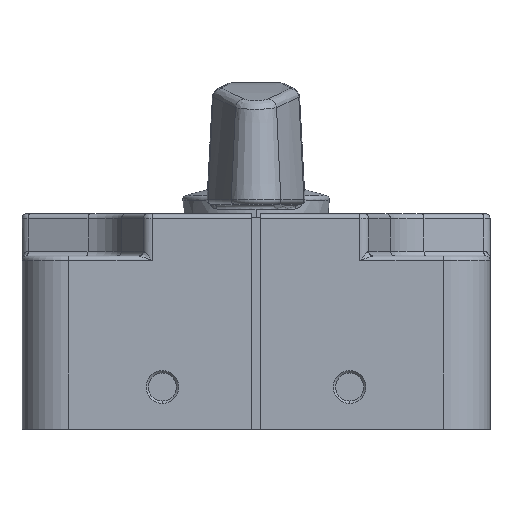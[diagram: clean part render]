
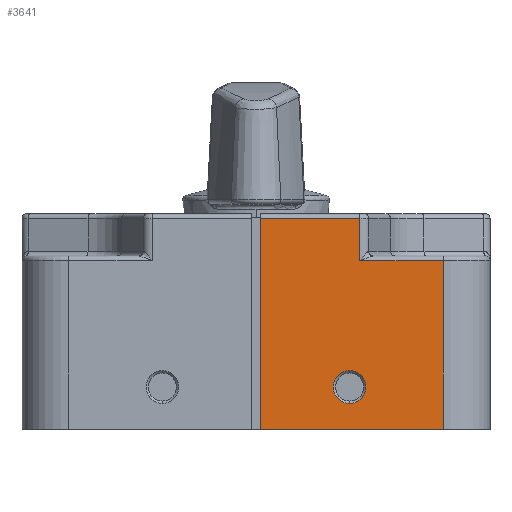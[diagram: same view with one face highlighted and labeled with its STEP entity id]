
A CAD part, front view. The second image highlights one B-rep face of the part: STEP entity #3641.
In plain terms, the highlighted planar face has unit normal (0, -1, 0).
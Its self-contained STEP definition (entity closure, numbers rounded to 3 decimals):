
#196 = EDGE_CURVE ( 'NONE', #3350, #11375, #659, .T. ) ;
#234 = VERTEX_POINT ( 'NONE', #2292 ) ;
#391 = DIRECTION ( 'NONE',  ( 0., 0., -1. ) ) ;
#395 = DIRECTION ( 'NONE',  ( 0., 0., 1. ) ) ;
#659 = LINE ( 'NONE', #10127, #11838 ) ;
#750 = VERTEX_POINT ( 'NONE', #4538 ) ;
#837 = DIRECTION ( 'NONE',  ( 0., 0., 1. ) ) ;
#1464 = CARTESIAN_POINT ( 'NONE',  ( 10., -25., -6.25 ) ) ;
#1479 = PLANE ( 'NONE',  #12047 ) ;
#1845 = ORIENTED_EDGE ( 'NONE', *, *, #2828, .F. ) ;
#1911 = EDGE_CURVE ( 'NONE', #10068, #10481, #9452, .T. ) ;
#2217 = AXIS2_PLACEMENT_3D ( 'NONE', #8156, #8973, #391 ) ;
#2292 = CARTESIAN_POINT ( 'NONE',  ( 0.5, -25., 13.5 ) ) ;
#2355 = FACE_BOUND ( 'NONE', #3634, .T. ) ;
#2424 = CIRCLE ( 'NONE', #2217, 1.75 ) ;
#2480 = ORIENTED_EDGE ( 'NONE', *, *, #196, .T. ) ;
#2627 = VERTEX_POINT ( 'NONE', #3777 ) ;
#2738 = ORIENTED_EDGE ( 'NONE', *, *, #8101, .T. ) ;
#2828 = EDGE_CURVE ( 'NONE', #10481, #10068, #2424, .T. ) ;
#3350 = VERTEX_POINT ( 'NONE', #3801 ) ;
#3396 = VECTOR ( 'NONE', #8278, 1000. ) ;
#3450 = LINE ( 'NONE', #4463, #3396 ) ;
#3634 = EDGE_LOOP ( 'NONE', ( #1845, #11097 ) ) ;
#3641 = ADVANCED_FACE ( 'NONE', ( #2355, #4425 ), #1479, .F. ) ;
#3777 = CARTESIAN_POINT ( 'NONE',  ( 11.095, -25., 9. ) ) ;
#3801 = CARTESIAN_POINT ( 'NONE',  ( 0.5, -25., -9. ) ) ;
#4001 = ORIENTED_EDGE ( 'NONE', *, *, #4670, .T. ) ;
#4066 = CARTESIAN_POINT ( 'NONE',  ( 10., -25., -4.5 ) ) ;
#4425 = FACE_OUTER_BOUND ( 'NONE', #12003, .T. ) ;
#4463 = CARTESIAN_POINT ( 'NONE',  ( 11.095, -25., 9. ) ) ;
#4538 = CARTESIAN_POINT ( 'NONE',  ( 11.095, -25., 13.5 ) ) ;
#4670 = EDGE_CURVE ( 'NONE', #12088, #2627, #3450, .T. ) ;
#4723 = VECTOR ( 'NONE', #395, 1000. ) ;
#5157 = CARTESIAN_POINT ( 'NONE',  ( 11.095, -25., 14. ) ) ;
#5436 = DIRECTION ( 'NONE',  ( 0., 1., 0. ) ) ;
#5621 = CARTESIAN_POINT ( 'NONE',  ( 20., -25., -9. ) ) ;
#5874 = VECTOR ( 'NONE', #837, 1000. ) ;
#6114 = EDGE_CURVE ( 'NONE', #2627, #750, #7099, .T. ) ;
#6460 = VECTOR ( 'NONE', #8148, 1000. ) ;
#6950 = DIRECTION ( 'NONE',  ( 0., 0., -1. ) ) ;
#7038 = CARTESIAN_POINT ( 'NONE',  ( -25., -25., 13.5 ) ) ;
#7066 = DIRECTION ( 'NONE',  ( 0., 0., 1. ) ) ;
#7071 = EDGE_CURVE ( 'NONE', #750, #234, #11057, .T. ) ;
#7099 = LINE ( 'NONE', #5157, #11464 ) ;
#7237 = DIRECTION ( 'NONE',  ( 1., 0., 0. ) ) ;
#7294 = CARTESIAN_POINT ( 'NONE',  ( 0.5, -25., 14. ) ) ;
#8101 = EDGE_CURVE ( 'NONE', #11375, #12088, #9421, .T. ) ;
#8148 = DIRECTION ( 'NONE',  ( -1., 0., 0. ) ) ;
#8156 = CARTESIAN_POINT ( 'NONE',  ( 10., -25., -4.5 ) ) ;
#8278 = DIRECTION ( 'NONE',  ( -1., 0., 0. ) ) ;
#8929 = ORIENTED_EDGE ( 'NONE', *, *, #10411, .F. ) ;
#8973 = DIRECTION ( 'NONE',  ( 0., -1., 0. ) ) ;
#9001 = DIRECTION ( 'NONE',  ( 0., -1., 0. ) ) ;
#9421 = LINE ( 'NONE', #12329, #5874 ) ;
#9452 = CIRCLE ( 'NONE', #11466, 1.75 ) ;
#9737 = ORIENTED_EDGE ( 'NONE', *, *, #7071, .T. ) ;
#10068 = VERTEX_POINT ( 'NONE', #11729 ) ;
#10127 = CARTESIAN_POINT ( 'NONE',  ( -25., -25., -9. ) ) ;
#10411 = EDGE_CURVE ( 'NONE', #3350, #234, #11001, .T. ) ;
#10481 = VERTEX_POINT ( 'NONE', #1464 ) ;
#11001 = LINE ( 'NONE', #7294, #4723 ) ;
#11057 = LINE ( 'NONE', #7038, #6460 ) ;
#11097 = ORIENTED_EDGE ( 'NONE', *, *, #1911, .F. ) ;
#11152 = CARTESIAN_POINT ( 'NONE',  ( -25., -25., 14. ) ) ;
#11231 = CARTESIAN_POINT ( 'NONE',  ( 20., -25., 9. ) ) ;
#11375 = VERTEX_POINT ( 'NONE', #5621 ) ;
#11424 = ORIENTED_EDGE ( 'NONE', *, *, #6114, .T. ) ;
#11464 = VECTOR ( 'NONE', #11946, 1000. ) ;
#11466 = AXIS2_PLACEMENT_3D ( 'NONE', #4066, #9001, #6950 ) ;
#11729 = CARTESIAN_POINT ( 'NONE',  ( 10., -25., -2.75 ) ) ;
#11838 = VECTOR ( 'NONE', #7237, 1000. ) ;
#11946 = DIRECTION ( 'NONE',  ( 0., 0., 1. ) ) ;
#12003 = EDGE_LOOP ( 'NONE', ( #9737, #8929, #2480, #2738, #4001, #11424 ) ) ;
#12047 = AXIS2_PLACEMENT_3D ( 'NONE', #11152, #5436, #7066 ) ;
#12088 = VERTEX_POINT ( 'NONE', #11231 ) ;
#12329 = CARTESIAN_POINT ( 'NONE',  ( 20., -25., 14. ) ) ;
